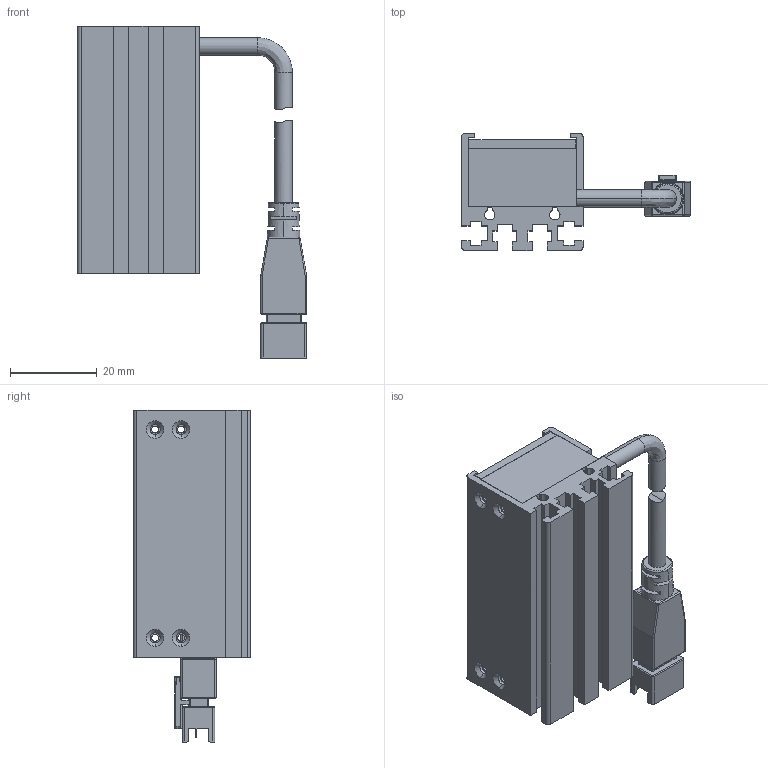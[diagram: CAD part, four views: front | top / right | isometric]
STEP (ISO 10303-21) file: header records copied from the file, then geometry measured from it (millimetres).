
FILE_DESCRIPTION (( 'STEP AP203' ), '1' );
FILE_NAME ('CRT-2BL-28-¼òÒ×3DÍ¼.STEP', '2022-03-04T06:24:07', ( 'Admin' ), ( '' ), 'SwSTEP 2.0', 'SolidWorks 2018', '' );
FILE_SCHEMA (( 'CONFIG_CONTROL_DESIGN' ));
Length unit declared in the file: millimetre
Products named in the file (1): CRT-2BL-28-潠眢3D芞
Bounding box: 52.75 x 27 x 76.5 mm (x, y, z)
Surface area: 17496 mm2 (no closed solid volume)
Topology: 0 solids, 6 shells, 346 faces, 1008 edges, 654 vertices
Faces by surface type: plane 201, cylinder 97, bspline 26, cone 22
Entity records: 11977 total; most frequent: CARTESIAN_POINT 2834, ORIENTED_EDGE 1876, DIRECTION 1835, EDGE_CURVE 1000, VECTOR 699, LINE 699, VERTEX_POINT 654, AXIS2_PLACEMENT_3D 568
